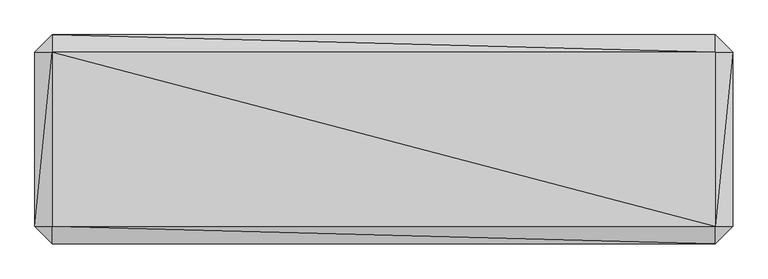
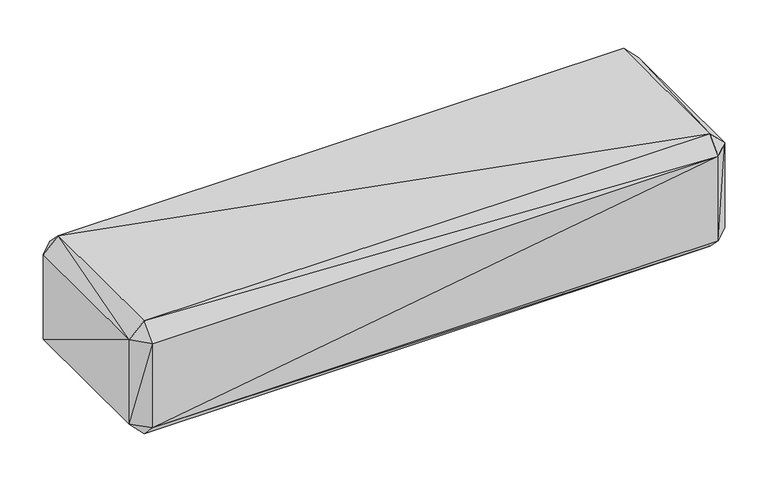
"""IFC4 building model written with IfcOpenShell, lengths in millimetres: geographic element geometry, Enscape AssetDefinition - Hedge 006 English Laurel : Enscape AssetDefinition - Hedge 006 English Laurel."""

from ifc_helpers import new_model, si_unit, origin, place, context, project, spatial, faceted_brep, source, transform, mapped, element, save


def geographic_element_6e2c9092(model_context):
    return source(origin(), model_context, "Body", "Brep", [
        faceted_brep([(949.9999881, 250.0, 400.000006), (-949.9999881, 250.0, 400.000006), (949.9999881, -250.0, 400.000006), (-949.9999881, 300.0000119, 349.999994), (-1000.0, 250.0, 349.999994), (-949.9999881, -250.0, 400.000006), (-1000.0, -250.0, 349.999994), (1000.0, 250.0, 349.999994), (949.9999881, 300.0000119, 349.999994), (-949.9999881, 300.0000119, 50.0000007), (949.9999881, 300.0000119, 50.0000007), (-1000.0, 250.0, 50.0000007), (-949.9999881, 250.0, 0.0), (949.9999881, 250.0, 0.0), (1000.0, 250.0, 50.0000007), (1000.0, -250.0, 50.0000007), (1000.0, -250.0, 349.999994), (949.9999881, -250.0, 0.0), (949.9999881, -300.0000119, 50.0000007), (-949.9999881, -250.0, 0.0), (-949.9999881, -300.0000119, 50.0000007), (-1000.0, -250.0, 50.0000007), (949.9999881, -300.0000119, 349.999994), (-949.9999881, -300.0000119, 349.999994)], [[[0, 1, 2]], [[3, 4, 1]], [[5, 1, 6]], [[1, 0, 3]], [[2, 1, 5]], [[6, 1, 4]], [[7, 8, 0]], [[0, 2, 7]], [[3, 0, 8]], [[9, 3, 10]], [[3, 9, 4]], [[10, 3, 8]], [[11, 6, 4]], [[4, 9, 11]], [[12, 11, 9]], [[9, 10, 12]], [[13, 10, 14]], [[8, 14, 10]], [[12, 10, 13]], [[7, 14, 8]], [[14, 7, 15]], [[14, 15, 13]], [[15, 7, 16]], [[7, 2, 16]], [[17, 15, 18]], [[16, 18, 15]], [[13, 15, 17]], [[17, 19, 13]], [[13, 19, 12]], [[19, 11, 12]], [[20, 21, 19]], [[21, 11, 19]], [[17, 20, 19]], [[18, 20, 17]], [[22, 18, 16]], [[18, 22, 20]], [[22, 16, 2]], [[2, 5, 22]], [[22, 5, 23]], [[20, 22, 23]], [[20, 23, 21]], [[21, 6, 11]], [[21, 23, 6]], [[6, 23, 5]]]),
    ])


if __name__ == "__main__":
    model = new_model("IFC4")
    model_context = context("Model", 3, world=origin())
    ifc_project = project(units=[si_unit("LENGTHUNIT", "METRE", prefix="MILLI")], contexts=[model_context])
    site = spatial("IfcSite", under=ifc_project)
    building = spatial("IfcBuilding", under=site)
    placement = place(None, origin())
    geographic_element_shape = geographic_element_6e2c9092(model_context)
    element("IfcGeographicElement", 1, ObjectType="Enscape AssetDefinition - Hedge 006 English Laurel : Enscape AssetDefinition - Hedge 006 English Laurel", at=placement, inside=building, context=model_context, shape_type="MappedRepresentation", body=[
        mapped(geographic_element_shape, transform((0.0, 0.0, 0.0), x_axis=(1.0, 0.0, 0.0), y_axis=(0.0, 1.0, 0.0), z_axis=(0.0, 0.0, 1.0))),
    ])
    save(model, "model.ifc")
